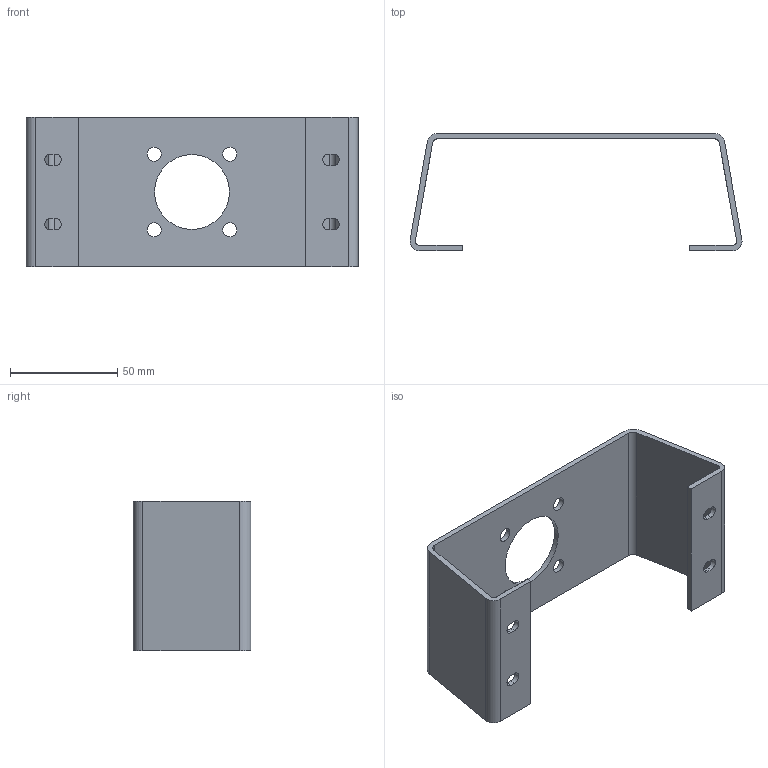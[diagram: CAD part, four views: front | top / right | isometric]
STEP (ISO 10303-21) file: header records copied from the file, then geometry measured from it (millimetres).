
FILE_DESCRIPTION((''),'2;1');
FILE_NAME('07943331','2015-04-30T',('DEX218155'),(''),'PRO/ENGINEER BY PARAMETRIC TECHNOLOGY CORPORATION, 2015030','PRO/ENGINEER BY PARAMETRIC TECHNOLOGY CORPORATION, 2015030','');
FILE_SCHEMA(('CONFIG_CONTROL_DESIGN'));
Length unit declared in the file: millimetre
Products named in the file (1): 07943331
Bounding box: 155.14 x 55 x 70 mm (x, y, z)
Volume: 46486.5 mm3; surface area: 39651.8 mm2
Topology: 1 solids, 1 shells, 48 faces, 138 edges, 92 vertices
Faces by surface type: cylinder 26, plane 22
Entity records: 1668 total; most frequent: DIRECTION 286, CARTESIAN_POINT 278, ORIENTED_EDGE 276, EDGE_CURVE 138, AXIS2_PLACEMENT_3D 100, VERTEX_POINT 92, VECTOR 86, LINE 86
